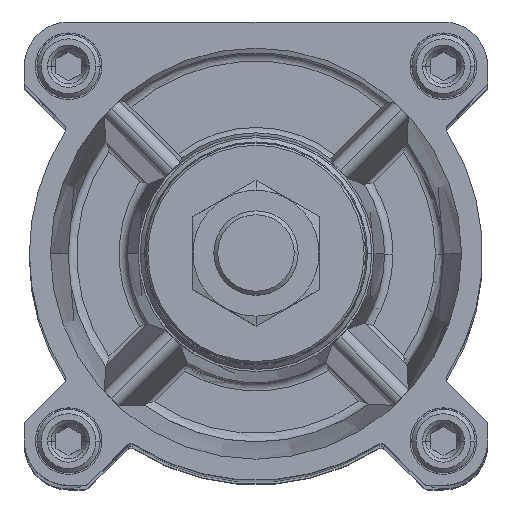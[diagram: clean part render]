
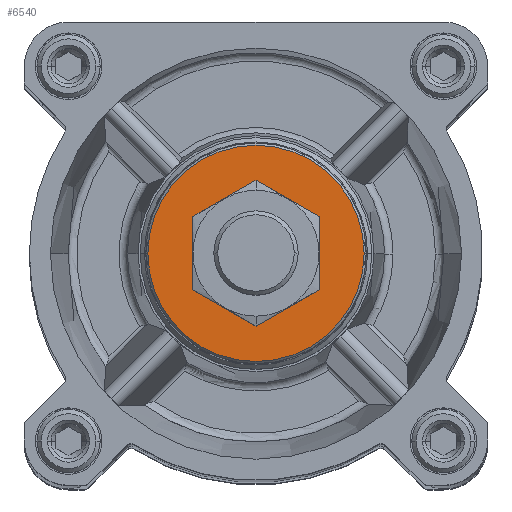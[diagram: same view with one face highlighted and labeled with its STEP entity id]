
A CAD part, top view. The second image highlights one B-rep face of the part: STEP entity #6540.
In plain terms, the highlighted planar face has unit normal (0, 0, 1).
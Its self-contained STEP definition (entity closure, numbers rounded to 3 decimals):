
#434 = EDGE_LOOP ( 'NONE', ( #1620, #4276 ) ) ;
#495 = DIRECTION ( 'NONE',  ( 0., 0., -1. ) ) ;
#828 = DIRECTION ( 'NONE',  ( -1., 0., 0. ) ) ;
#884 = EDGE_CURVE ( 'NONE', #7469, #15314, #3896, .T. ) ;
#1107 = DIRECTION ( 'NONE',  ( 0., 0., -1. ) ) ;
#1620 = ORIENTED_EDGE ( 'NONE', *, *, #884, .T. ) ;
#1834 = ORIENTED_EDGE ( 'NONE', *, *, #17362, .F. ) ;
#2096 = AXIS2_PLACEMENT_3D ( 'NONE', #8268, #14106, #12664 ) ;
#2453 = PLANE ( 'NONE',  #2096 ) ;
#2533 = CARTESIAN_POINT ( 'NONE',  ( 0., 0., 38. ) ) ;
#3063 = CARTESIAN_POINT ( 'NONE',  ( 0., 0., 38. ) ) ;
#3210 = AXIS2_PLACEMENT_3D ( 'NONE', #3063, #495, #3350 ) ;
#3239 = CIRCLE ( 'NONE', #16652, 12.5 ) ;
#3350 = DIRECTION ( 'NONE',  ( -1., 0., 0. ) ) ;
#3896 = CIRCLE ( 'NONE', #18524, 12.5 ) ;
#4060 = DIRECTION ( 'NONE',  ( -1., 0., 0. ) ) ;
#4276 = ORIENTED_EDGE ( 'NONE', *, *, #11672, .T. ) ;
#4746 = ORIENTED_EDGE ( 'NONE', *, *, #10772, .F. ) ;
#5105 = CARTESIAN_POINT ( 'NONE',  ( 0., 0., 38. ) ) ;
#6540 = ADVANCED_FACE ( 'NONE', ( #13814, #9701 ), #2453, .F. ) ;
#7201 = DIRECTION ( 'NONE',  ( -1., 0., 0. ) ) ;
#7469 = VERTEX_POINT ( 'NONE', #18410 ) ;
#8268 = CARTESIAN_POINT ( 'NONE',  ( 0., 0., 38. ) ) ;
#9044 = CARTESIAN_POINT ( 'NONE',  ( 25.681, 0., 38. ) ) ;
#9354 = CARTESIAN_POINT ( 'NONE',  ( -25.681, 0., 38. ) ) ;
#9701 = FACE_BOUND ( 'NONE', #434, .T. ) ;
#10772 = EDGE_CURVE ( 'NONE', #13373, #18336, #17256, .T. ) ;
#11672 = EDGE_CURVE ( 'NONE', #15314, #7469, #3239, .T. ) ;
#12355 = DIRECTION ( 'NONE',  ( 0., 0., -1. ) ) ;
#12362 = AXIS2_PLACEMENT_3D ( 'NONE', #5105, #12355, #828 ) ;
#12664 = DIRECTION ( 'NONE',  ( 0., -1., 0. ) ) ;
#13373 = VERTEX_POINT ( 'NONE', #9044 ) ;
#13554 = EDGE_LOOP ( 'NONE', ( #1834, #4746 ) ) ;
#13814 = FACE_OUTER_BOUND ( 'NONE', #13554, .T. ) ;
#13900 = CIRCLE ( 'NONE', #12362, 25.681 ) ;
#14106 = DIRECTION ( 'NONE',  ( 0., 0., -1. ) ) ;
#14759 = CARTESIAN_POINT ( 'NONE',  ( 0., 0., 38. ) ) ;
#15314 = VERTEX_POINT ( 'NONE', #18273 ) ;
#16005 = DIRECTION ( 'NONE',  ( 0., 0., -1. ) ) ;
#16652 = AXIS2_PLACEMENT_3D ( 'NONE', #2533, #1107, #4060 ) ;
#17256 = CIRCLE ( 'NONE', #3210, 25.681 ) ;
#17362 = EDGE_CURVE ( 'NONE', #18336, #13373, #13900, .T. ) ;
#18273 = CARTESIAN_POINT ( 'NONE',  ( 12.5, 0., 38. ) ) ;
#18336 = VERTEX_POINT ( 'NONE', #9354 ) ;
#18410 = CARTESIAN_POINT ( 'NONE',  ( -12.5, 0., 38. ) ) ;
#18524 = AXIS2_PLACEMENT_3D ( 'NONE', #14759, #16005, #7201 ) ;
